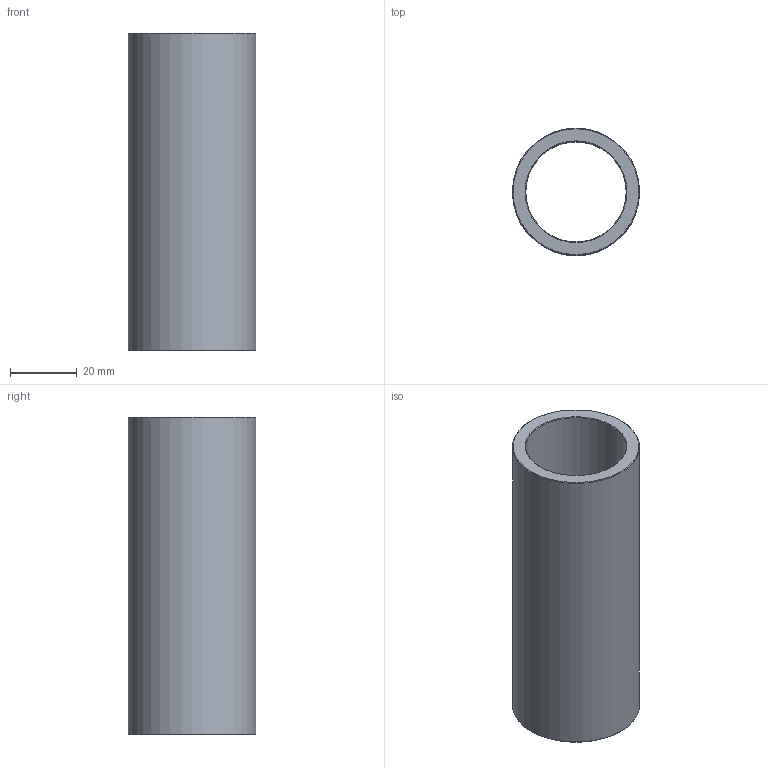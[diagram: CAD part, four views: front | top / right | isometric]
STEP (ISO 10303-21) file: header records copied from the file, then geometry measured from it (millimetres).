
FILE_DESCRIPTION(('STEP AP203'),'1');
FILE_NAME('C:/Users/Rodrigo/Desktop/GA4.030.095-1.step','2016-11-07T16:56:04',(' '),(' '),'Spatial InterOp 3D',' ',' ');
FILE_SCHEMA(('CONFIG_CONTROL_DESIGN'));
Length unit declared in the file: millimetre
Products named in the file (1): 1
Bounding box: 38 x 38 x 95 mm (x, y, z)
Volume: 40580.8 mm3; surface area: 21099.1 mm2
Topology: 1 solids, 1 shells, 8 faces, 14 edges, 8 vertices
Faces by surface type: cone 4, cylinder 2, plane 2
Full cylindrical faces by diameter (mm): 30 x1, 38 x1
Entity records: 212 total; most frequent: DIRECTION 34, CARTESIAN_POINT 25, AXIS2_PLACEMENT_3D 17, EDGE_LOOP 16, ORIENTED_EDGE 16, FACE_OUTER_BOUND 10, ADVANCED_FACE 8, EDGE_CURVE 8
